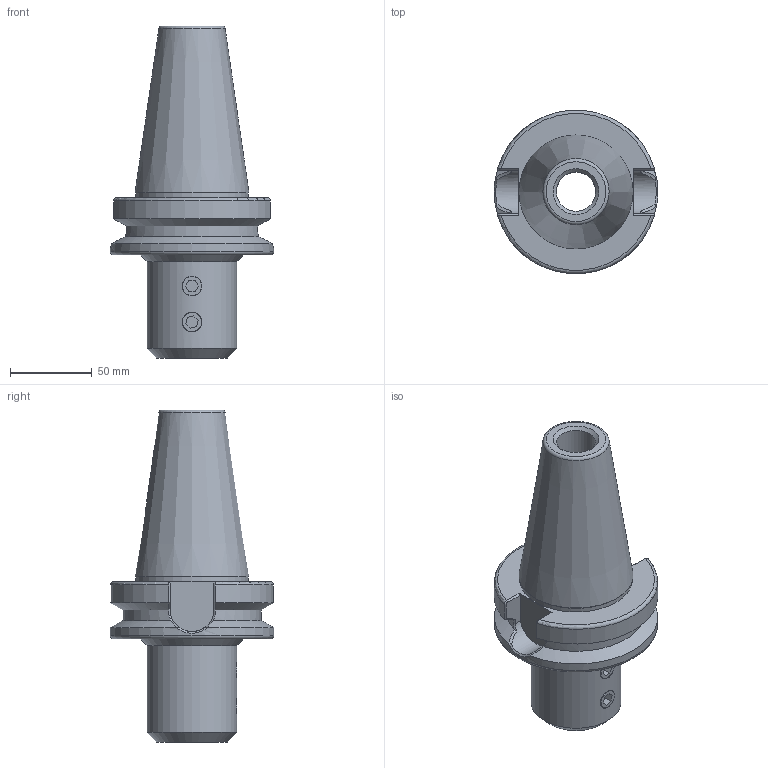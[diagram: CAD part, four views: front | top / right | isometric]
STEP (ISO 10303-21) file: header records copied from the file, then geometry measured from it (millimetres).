
FILE_DESCRIPTION(/* description */ (''),/* implementation_level */ '2;1');
FILE_NAME(/* name */ 'Z:\Проектный отдел\Алена\Оправка фрезерная (патрон) BT50-SLN25-100L\BT50-SLN25-100L.stp',/* time_stamp */ '2024-02-16T16:38:41+03:00',/* author */ ('User'),/* organization */ (''),/* preprocessor_version */ 'ST-DEVELOPER v18',/* originating_system */ 'Autodesk Inventor 2020',/* authorisation */ '');
FILE_SCHEMA (('AUTOMOTIVE_DESIGN { 1 0 10303 214 3 1 1 }'));
Length unit declared in the file: millimetre
Products named in the file (3): BT50-SLN25-100L; BT50-SLN20-90L; Сухарик
Assembly tree (3 placements, depth 2):
  BT50-SLN25-100L
    BT50-SLN20-90L
    Сухарик  x2
Bounding box: 100 x 100 x 203 mm (x, y, z)
Volume: 540618.2 mm3; surface area: 71311.8 mm2
Topology: 3 solids, 3 shells, 92 faces, 253 edges, 173 vertices
Faces by surface type: plane 42, bspline 22, cylinder 15, cone 9, torus 4
Full cylindrical faces by diameter (mm): 11.5 x2, 12 x2, 24 x1, 25 x1, 55 x1, 69 x1, 100 x1
Entity records: 3746 total; most frequent: CARTESIAN_POINT 1681, ORIENTED_EDGE 460, DIRECTION 315, EDGE_CURVE 230, VERTEX_POINT 157, AXIS2_PLACEMENT_3D 117, B_SPLINE_CURVE_WITH_KNOTS 99, EDGE_LOOP 93
